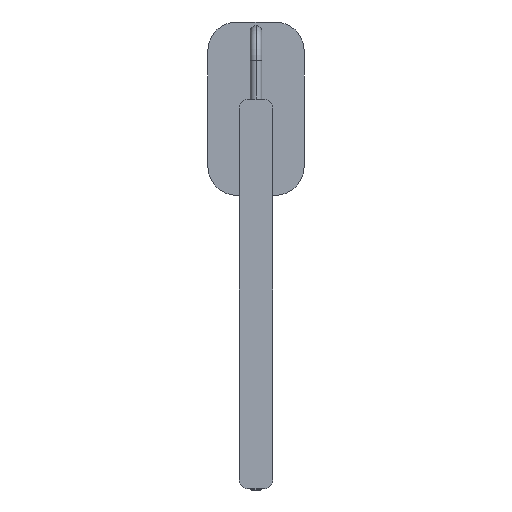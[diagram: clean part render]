
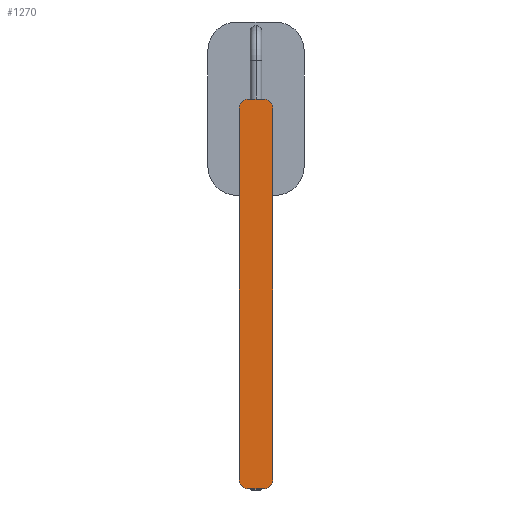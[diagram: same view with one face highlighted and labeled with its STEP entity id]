
A CAD part, front view. The second image highlights one B-rep face of the part: STEP entity #1270.
In plain terms, the highlighted planar face has unit normal (0, -1, 0).
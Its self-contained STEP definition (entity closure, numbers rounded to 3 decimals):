
#535=CARTESIAN_POINT('',(192.5,0.,7.5));
#536=DIRECTION('',(0.,1.,0.));
#537=DIRECTION('',(0.,0.,1.));
#538=AXIS2_PLACEMENT_3D('',#535,#536,#537);
#540=CARTESIAN_POINT('',(192.5,0.,-7.5));
#541=DIRECTION('',(0.,1.,0.));
#542=DIRECTION('',(1.,0.,0.));
#543=AXIS2_PLACEMENT_3D('',#540,#541,#542);
#545=CARTESIAN_POINT('',(-192.5,0.,-7.5));
#546=DIRECTION('',(0.,1.,0.));
#547=DIRECTION('',(0.,0.,-1.));
#548=AXIS2_PLACEMENT_3D('',#545,#546,#547);
#550=CARTESIAN_POINT('',(-192.5,0.,7.5));
#551=DIRECTION('',(0.,1.,0.));
#552=DIRECTION('',(-1.,0.,0.));
#553=AXIS2_PLACEMENT_3D('',#550,#551,#552);
#563=DIRECTION('',(-1.,0.,0.));
#564=VECTOR('',#563,385.);
#565=CARTESIAN_POINT('',(192.5,0.,17.5));
#566=LINE('',#565,#564);
#575=DIRECTION('',(0.,0.,-1.));
#576=VECTOR('',#575,15.);
#577=CARTESIAN_POINT('',(-202.5,0.,7.5));
#578=LINE('',#577,#576);
#597=DIRECTION('',(1.,0.,0.));
#598=VECTOR('',#597,385.);
#599=CARTESIAN_POINT('',(-192.5,0.,-17.5));
#600=LINE('',#599,#598);
#609=DIRECTION('',(0.,0.,1.));
#610=VECTOR('',#609,15.);
#611=CARTESIAN_POINT('',(202.5,0.,-7.5));
#612=LINE('',#611,#610);
#1079=CARTESIAN_POINT('',(192.5,0.,17.5));
#1080=CARTESIAN_POINT('',(202.5,0.,7.5));
#1081=VERTEX_POINT('',#1079);
#1082=VERTEX_POINT('',#1080);
#1083=CARTESIAN_POINT('',(202.5,0.,-7.5));
#1084=VERTEX_POINT('',#1083);
#1085=CARTESIAN_POINT('',(192.5,0.,-17.5));
#1086=VERTEX_POINT('',#1085);
#1087=CARTESIAN_POINT('',(-192.5,0.,-17.5));
#1088=VERTEX_POINT('',#1087);
#1089=CARTESIAN_POINT('',(-202.5,0.,-7.5));
#1090=VERTEX_POINT('',#1089);
#1091=CARTESIAN_POINT('',(-202.5,0.,7.5));
#1092=VERTEX_POINT('',#1091);
#1093=CARTESIAN_POINT('',(-192.5,0.,17.5));
#1094=VERTEX_POINT('',#1093);
#1247=CARTESIAN_POINT('',(0.,0.,0.));
#1248=DIRECTION('',(0.,1.,0.));
#1249=DIRECTION('',(1.,0.,0.));
#1250=AXIS2_PLACEMENT_3D('',#1247,#1248,#1249);
#1251=PLANE('',#1250);
#1253=ORIENTED_EDGE('',*,*,#1252,.T.);
#1255=ORIENTED_EDGE('',*,*,#1254,.F.);
#1257=ORIENTED_EDGE('',*,*,#1256,.T.);
#1259=ORIENTED_EDGE('',*,*,#1258,.F.);
#1261=ORIENTED_EDGE('',*,*,#1260,.T.);
#1263=ORIENTED_EDGE('',*,*,#1262,.F.);
#1265=ORIENTED_EDGE('',*,*,#1264,.T.);
#1267=ORIENTED_EDGE('',*,*,#1266,.F.);
#1268=EDGE_LOOP('',(#1253,#1255,#1257,#1259,#1261,#1263,#1265,#1267));
#1269=FACE_OUTER_BOUND('',#1268,.F.);
#539=CIRCLE('',#538,10.);
#544=CIRCLE('',#543,10.);
#549=CIRCLE('',#548,10.);
#554=CIRCLE('',#553,10.);
#1252=EDGE_CURVE('',#1081,#1082,#539,.T.);
#1254=EDGE_CURVE('',#1084,#1082,#612,.T.);
#1256=EDGE_CURVE('',#1084,#1086,#544,.T.);
#1258=EDGE_CURVE('',#1088,#1086,#600,.T.);
#1260=EDGE_CURVE('',#1088,#1090,#549,.T.);
#1262=EDGE_CURVE('',#1092,#1090,#578,.T.);
#1264=EDGE_CURVE('',#1092,#1094,#554,.T.);
#1266=EDGE_CURVE('',#1081,#1094,#566,.T.);
#1270=ADVANCED_FACE('',(#1269),#1251,.F.);
